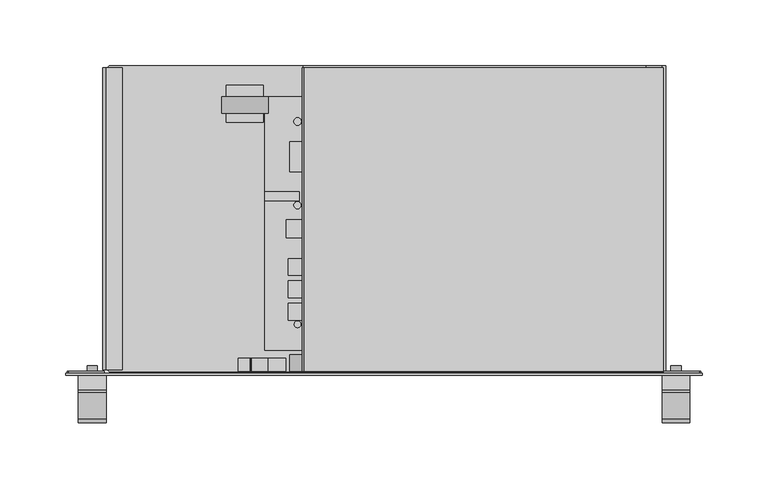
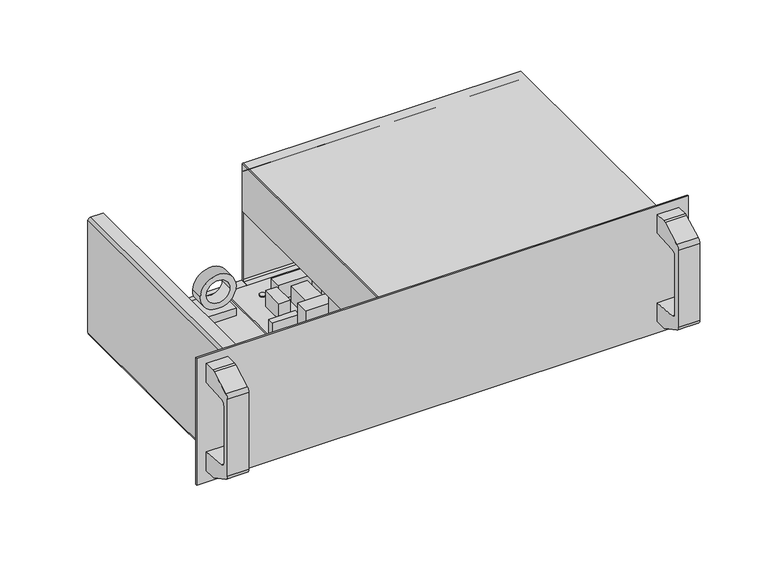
"""IFC4 building model written with IfcOpenShell, lengths in millimetres: proxy geometry, AES 48V 8A RACK : AES 48V 8A RACK."""

from ifc_helpers import new_model, si_unit, point, frame, frame_2d, origin, place, context, project, spatial, polyline, circle_curve, trimmed, segment, composite_curve, outline, extrude, source, transform, mapped, element, save


def electrical_equipment_2903663d(model_context):
    return source(origin(), model_context, "Body", "SweptSolid", [
        extrude(outline(composite_curve([segment(trimmed(circle_curve(frame_2d((69.5120804, -40.3346366)), 17.6593111), [point((69.5120804, -22.6753256))], [point((69.5120804, -57.9939477))], False, "CARTESIAN"), True, "CONTINUOUS"), segment(trimmed(circle_curve(frame_2d((69.5120804, -40.3346366)), 17.6593111), [point((69.5120804, -57.9939477))], [point((69.5120804, -22.6753256))], False, "CARTESIAN"), True, "CONTINUOUS")], self_intersect=False), holes=[composite_curve([segment(trimmed(circle_curve(frame_2d((69.5120804, -40.3346366)), 11.5), [point((69.5120804, -28.8346366))], [point((69.5120804, -51.8346366))], True, "CARTESIAN"), True, "CONTINUOUS"), segment(trimmed(circle_curve(frame_2d((69.5120804, -40.3346366)), 11.5), [point((69.5120804, -51.8346366))], [point((69.5120804, -28.8346366))], True, "CARTESIAN"), True, "CONTINUOUS")], self_intersect=False)]), frame((0.0, -103.5804057, 0.0), z_axis=(0.0, 1.0, 0.0), x_axis=(0.0, 0.0, 1.0)), (0.0, 0.0, 1.0), 12.75),
        extrude(outline(composite_curve([segment(trimmed(circle_curve(frame_2d((85.5561483, -75.5633423)), 1.4726773), [point((85.4575, -74.0939727))], [point((84.4475, -74.5939727))], True, "CARTESIAN"), True, "CONTINUOUS"), segment(polyline([(84.4475, -74.5939727), (84.4475, -87.1739727)]), True, "CONTINUOUS"), segment(trimmed(circle_curve(frame_2d((85.0762624, -87.1739727)), 0.6287624), [point((84.4475, -87.1739727))], [point((85.4575, -87.6739727))], True, "CARTESIAN"), True, "CONTINUOUS"), segment(polyline([(85.4575, -87.6739727), (85.4575, -96.9439727), (43.4175, -96.9439727), (43.4175, -87.6739727), (44.4275, -87.1739727), (44.4275, -74.5939727), (43.4175, -74.0939727), (43.4175, -60.8939727), (85.4575, -60.8939727), (85.4575, -74.0939727)]), True, "CONTINUOUS")], self_intersect=False)), frame((0.0, -103.5804057, 0.0), z_axis=(0.0, 1.0, 0.0), x_axis=(0.0, 0.0, 1.0)), (0.0, 0.0, 1.0), 10.1),
        extrude(outline(composite_curve([segment(trimmed(circle_curve(frame_2d((111.0486852, -207.8805611)), 3.8825564), [point((111.0486852, -211.7631175))], [point((111.0486852, -203.9980047))], False, "CARTESIAN"), True, "CONTINUOUS"), segment(trimmed(circle_curve(frame_2d((111.0486852, -207.8805611)), 3.8825564), [point((111.0486852, -203.9980047))], [point((111.0486852, -211.7631175))], False, "CARTESIAN"), True, "CONTINUOUS")], self_intersect=False)), frame((0.0, -105.0804057, 0.0), z_axis=(0.0, 1.0, 0.0), x_axis=(0.0, 0.0, 1.0)), (0.0, 0.0, 1.0), 5.7),
        extrude(outline(composite_curve([segment(trimmed(circle_curve(frame_2d((111.0073968, 235.1983586)), 3.9056349), [point((111.0073968, 231.2927237))], [point((111.0073968, 239.1039935))], False, "CARTESIAN"), True, "CONTINUOUS"), segment(trimmed(circle_curve(frame_2d((111.0073968, 235.1983586)), 3.9056349), [point((111.0073968, 239.1039935))], [point((111.0073968, 231.2927237))], False, "CARTESIAN"), True, "CONTINUOUS")], self_intersect=False)), frame((0.0, -105.0804057, 0.0), z_axis=(0.0, 1.0, 0.0), x_axis=(0.0, 0.0, 1.0)), (0.0, 0.0, 1.0), 5.7),
        extrude(outline(composite_curve([segment(trimmed(circle_curve(frame_2d((18.5190475, 235.0400975)), 3.8287512), [point((18.5190475, 231.2113463))], [point((18.5190475, 238.8688488))], False, "CARTESIAN"), True, "CONTINUOUS"), segment(trimmed(circle_curve(frame_2d((18.5190475, 235.0400975)), 3.8287512), [point((18.5190475, 238.8688488))], [point((18.5190475, 231.2113463))], False, "CARTESIAN"), True, "CONTINUOUS")], self_intersect=False)), frame((0.0, -105.0804057, 0.0), z_axis=(0.0, 1.0, 0.0), x_axis=(0.0, 0.0, 1.0)), (0.0, 0.0, 1.0), 5.7),
        extrude(outline(composite_curve([segment(trimmed(circle_curve(frame_2d((18.5611817, -207.8813006)), 3.7501449), [point((18.5611817, -211.6314454))], [point((18.5611817, -204.1311557))], False, "CARTESIAN"), True, "CONTINUOUS"), segment(trimmed(circle_curve(frame_2d((18.5611817, -207.8813006)), 3.7501449), [point((18.5611817, -204.1311557))], [point((18.5611817, -211.6314454))], False, "CARTESIAN"), True, "CONTINUOUS")], self_intersect=False)), frame((0.0, -105.0804057, 0.0), z_axis=(0.0, 1.0, 0.0), x_axis=(0.0, 0.0, 1.0)), (0.0, 0.0, 1.0), 5.7),
        extrude(outline(composite_curve([segment(trimmed(circle_curve(frame_2d((-51.9851856, 86.1970682)), 2.8241029), [point((-54.8092885, 86.1970682))], [point((-49.1610827, 86.1970682))], False, "CARTESIAN"), True, "CONTINUOUS"), segment(trimmed(circle_curve(frame_2d((-51.9851856, 86.1970682)), 2.8241029), [point((-49.1610827, 86.1970682))], [point((-54.8092885, 86.1970682))], False, "CARTESIAN"), True, "CONTINUOUS")], self_intersect=False)), frame((0.0, 0.0, 6.0), z_axis=(0.0, 0.0, 1.0), x_axis=(1.0, 0.0, 0.0)), (0.0, 0.0, 1.0), 12.6),
        extrude(outline(composite_curve([segment(trimmed(circle_curve(frame_2d((-52.0963246, 22.7243521)), 2.7385816), [point((-54.8349062, 22.7243521))], [point((-49.357743, 22.7243521))], False, "CARTESIAN"), True, "CONTINUOUS"), segment(trimmed(circle_curve(frame_2d((-52.0963246, 22.7243521)), 2.7385816), [point((-49.357743, 22.7243521))], [point((-54.8349062, 22.7243521))], False, "CARTESIAN"), True, "CONTINUOUS")], self_intersect=False)), frame((0.0, 0.0, 6.0), z_axis=(0.0, 0.0, 1.0), x_axis=(1.0, 0.0, 0.0)), (0.0, 0.0, 1.0), 12.6),
        extrude(outline(composite_curve([segment(trimmed(circle_curve(frame_2d((-51.9263266, -67.7776614)), 2.4983309), [point((-54.4246575, -67.7776614))], [point((-49.4279958, -67.7776614))], False, "CARTESIAN"), True, "CONTINUOUS"), segment(trimmed(circle_curve(frame_2d((-51.9263266, -67.7776614)), 2.4983309), [point((-49.4279958, -67.7776614))], [point((-54.4246575, -67.7776614))], False, "CARTESIAN"), True, "CONTINUOUS")], self_intersect=False)), frame((0.0, 0.0, 6.0), z_axis=(0.0, 0.0, 1.0), x_axis=(1.0, 0.0, 0.0)), (0.0, 0.0, 1.0), 12.6),
        extrude(outline(composite_curve([segment(trimmed(circle_curve(frame_2d((145.3056812, -67.6231412)), 2.72988), [point((142.5758013, -67.6231412))], [point((148.0355612, -67.6231412))], False, "CARTESIAN"), True, "CONTINUOUS"), segment(trimmed(circle_curve(frame_2d((145.3056812, -67.6231412)), 2.72988), [point((148.0355612, -67.6231412))], [point((142.5758013, -67.6231412))], False, "CARTESIAN"), True, "CONTINUOUS")], self_intersect=False)), frame((0.0, 0.0, 6.0), z_axis=(0.0, 0.0, 1.0), x_axis=(1.0, 0.0, 0.0)), (0.0, 0.0, 1.0), 12.6),
        extrude(outline(composite_curve([segment(trimmed(circle_curve(frame_2d((145.3175625, 86.3095784)), 2.7108939), [point((142.6066685, 86.3095784))], [point((148.0284564, 86.3095784))], False, "CARTESIAN"), True, "CONTINUOUS"), segment(trimmed(circle_curve(frame_2d((145.3175625, 86.3095784)), 2.7108939), [point((148.0284564, 86.3095784))], [point((142.6066685, 86.3095784))], False, "CARTESIAN"), True, "CONTINUOUS")], self_intersect=False)), frame((0.0, 0.0, 6.0), z_axis=(0.0, 0.0, 1.0), x_axis=(1.0, 0.0, 0.0)), (0.0, 0.0, 1.0), 12.6),
        extrude(outline(composite_curve([segment(trimmed(circle_curve(frame_2d((85.5561483, -75.5633423)), 1.4726773), [point((85.4575, -74.0939727))], [point((84.4475, -74.5939727))], True, "CARTESIAN"), True, "CONTINUOUS"), segment(polyline([(84.4475, -74.5939727), (84.4475, -87.1739727)]), True, "CONTINUOUS"), segment(trimmed(circle_curve(frame_2d((85.0762624, -87.1739727)), 0.6287624), [point((84.4475, -87.1739727))], [point((85.4575, -87.6739727))], True, "CARTESIAN"), True, "CONTINUOUS"), segment(polyline([(85.4575, -87.6739727), (85.4575, -96.9439727), (43.4175, -96.9439727), (43.4175, -87.6739727), (44.4275, -87.1739727), (44.4275, -74.5939727), (43.4175, -74.0939727), (43.4175, -60.8939727), (85.4575, -60.8939727), (85.4575, -74.0939727)]), True, "CONTINUOUS")], self_intersect=False)), frame((0.0, -103.5804057, 0.0), z_axis=(0.0, 1.0, 0.0), x_axis=(0.0, 0.0, 1.0)), (0.0, 0.0, 1.0), 10.1),
        extrude(outline(polyline([(70.7205579, -37.8212855), (33.897325, -37.8212855), (33.897325, -55.4322057), (-8.0194421, -55.4322057), (-13.4690418, -55.4322057), (-13.4690418, -68.4918057), (-35.4844421, -68.4918057), (-35.4844421, -35.0322057), (-45.4844421, -35.0322057), (-45.4844421, -15.0322057), (70.7205579, -15.0322057), (70.7205579, -37.8212855)])), frame((0.0, 0.0, 17.6), z_axis=(0.0, 0.0, 1.0), x_axis=(1.0, 0.0, 0.0)), (0.0, 0.0, 1.0), 59.1044),
        extrude(outline(polyline([(141.6665579, 90.2073943), (141.6665579, -71.6922057), (41.6965579, -71.6922057), (41.6965579, -41.6922057), (76.6665579, -41.6922057), (76.6665579, 34.4073943), (-9.3334421, 34.4073943), (-9.3334421, 90.2073943), (141.6665579, 90.2073943)])), frame((0.0, 0.0, 61.0), z_axis=(0.0, 0.0, 1.0), x_axis=(1.0, 0.0, 0.0)), (0.0, 0.0, 1.0), 1.1),
        extrude(outline(polyline([(-60.5894421, 11.5677943), (46.5731579, 11.5677943), (46.5731579, -2.0237497), (-60.5894421, -2.0237497), (-60.5894421, 11.5677943)])), frame((0.0, 0.0, 17.6), z_axis=(0.0, 0.0, 1.0), x_axis=(1.0, 0.0, 0.0)), (0.0, 0.0, 1.0), 40.2),
        extrude(outline(polyline([(-21.2703727, -25.5856057), (7.7618273, -25.5856057), (7.7618273, -37.3966057), (-21.2703727, -37.3966057), (-21.2703727, -25.5856057)])), frame((0.0, 0.0, 16.0), z_axis=(0.0, 0.0, 1.0), x_axis=(1.0, 0.0, 0.0)), (0.0, 0.0, 1.0), 17.8),
        extrude(outline(polyline([(-21.2703727, -9.9646057), (7.3880344, -9.9646057), (7.3880344, -22.1300845), (-21.2703727, -22.1300845), (-21.2703727, -9.9646057)])), frame((0.0, 0.0, 16.0), z_axis=(0.0, 0.0, 1.0), x_axis=(1.0, 0.0, 0.0)), (0.0, 0.0, 1.0), 17.8),
        extrude(outline(polyline([(-21.0417727, -71.2294057), (-21.0417727, -42.1972057), (-9.2307727, -42.1972057), (-9.2307727, -71.2294057), (-21.0417727, -71.2294057)])), frame((0.0, 0.0, 16.0), z_axis=(0.0, 0.0, 1.0), x_axis=(1.0, 0.0, 0.0)), (0.0, 0.0, 1.0), 17.8),
        extrude(outline(polyline([(-50.8105727, 32.701795), (-50.8105727, 26.1933546), (-76.8963727, 26.1933546), (-76.8963727, 32.701795), (-50.8105727, 32.701795)])), frame((0.0, 0.0, 16.0), z_axis=(0.0, 0.0, 1.0), x_axis=(1.0, 0.0, 0.0)), (0.0, 0.0, 1.0), 17.8),
        extrude(outline(polyline([(-19.4037421, 66.0706943), (-19.4037421, 35.0706943), (-35.4037421, 35.0706943), (-35.4037421, 66.0706943), (-19.4037421, 66.0706943)])), frame((0.0, 0.0, 16.0), z_axis=(0.0, 0.0, 1.0), x_axis=(1.0, 0.0, 0.0)), (0.0, 0.0, 1.0), 17.8),
        extrude(outline(polyline([(-46.6696421, 70.9795943), (-46.6696421, 48.1195943), (-57.7694421, 48.1195943), (-57.7694421, 70.9795943), (-46.6696421, 70.9795943)])), frame((0.0, 0.0, 16.0), z_axis=(0.0, 0.0, 1.0), x_axis=(1.0, 0.0, 0.0)), (0.0, 0.0, 1.0), 17.8),
        extrude(outline(polyline([(-78.0726421, 113.6425951), (-78.0726421, 85.5525919), (-106.0811387, 85.5525919), (-106.0811387, 113.6425951), (-78.0726421, 113.6425951)])), frame((0.0, 0.0, 6.0), z_axis=(0.0, 0.0, 1.0), x_axis=(1.0, 0.0, 0.0)), (0.0, 0.0, 1.0), 8.094273),
        extrude(outline(composite_curve([segment(polyline([(129.0, 225.5526273), (129.0, -47.4473727)]), True, "CONTINUOUS"), segment(trimmed(circle_curve(frame_2d((128.0, -47.4473727)), 1.0), [point((129.0, -47.4473727))], [point((128.0, -48.4473727))], False, "CARTESIAN"), True, "CONTINUOUS"), segment(polyline([(128.0, -48.4473727), (79.0, -48.4473727), (79.0, -47.4473727), (128.0, -47.4473727), (128.0, 225.5526273), (129.0, 225.5526273)]), True, "CONTINUOUS")], self_intersect=False)), frame((0.0, -103.5804057, 0.0), z_axis=(0.0, 1.0, 0.0), x_axis=(0.0, 0.0, 1.0)), (0.0, 0.0, 1.0), 230.5),
        extrude(outline(composite_curve([segment(trimmed(circle_curve(frame_2d((36.1, 151.0880473)), 17.6593111), [point((36.1, 168.7473583))], [point((36.1, 133.4287362))], False, "CARTESIAN"), True, "CONTINUOUS"), segment(trimmed(circle_curve(frame_2d((36.1, 151.0880473)), 17.6593111), [point((36.1, 133.4287362))], [point((36.1, 168.7473583))], False, "CARTESIAN"), True, "CONTINUOUS")], self_intersect=False), holes=[composite_curve([segment(trimmed(circle_curve(frame_2d((36.1, 151.0880473)), 11.5), [point((36.1, 162.5880473))], [point((36.1, 139.5880473))], True, "CARTESIAN"), True, "CONTINUOUS"), segment(trimmed(circle_curve(frame_2d((36.1, 151.0880473)), 11.5), [point((36.1, 139.5880473))], [point((36.1, 162.5880473))], True, "CARTESIAN"), True, "CONTINUOUS")], self_intersect=False)]), frame((0.0, 39.6966943, 0.0), z_axis=(0.0, 1.0, 0.0), x_axis=(0.0, 0.0, 1.0)), (0.0, 0.0, 1.0), 18.0),
        extrude(outline(composite_curve([segment(trimmed(circle_curve(frame_2d((36.1, 76.9425516)), 17.0), [point((36.1, 93.9425516))], [point((36.1, 59.9425516))], False, "CARTESIAN"), True, "CONTINUOUS"), segment(trimmed(circle_curve(frame_2d((36.1, 76.9425516)), 17.0), [point((36.1, 59.9425516))], [point((36.1, 93.9425516))], False, "CARTESIAN"), True, "CONTINUOUS")], self_intersect=False), holes=[composite_curve([segment(trimmed(circle_curve(frame_2d((36.1, 76.9425516)), 11.5), [point((36.1, 88.4425516))], [point((36.1, 65.4425516))], True, "CARTESIAN"), True, "CONTINUOUS"), segment(trimmed(circle_curve(frame_2d((36.1, 76.9425516)), 11.5), [point((36.1, 65.4425516))], [point((36.1, 88.4425516))], True, "CARTESIAN"), True, "CONTINUOUS")], self_intersect=False)]), frame((0.0, -36.8549363, 0.0), z_axis=(0.0, 1.0, 0.0), x_axis=(0.0, 0.0, 1.0)), (0.0, 0.0, 1.0), 12.75),
        extrude(outline(composite_curve([segment(trimmed(circle_curve(frame_2d((36.1, 36.4625333)), 17.6593111), [point((36.1, 54.1218443))], [point((36.1, 18.8032222))], False, "CARTESIAN"), True, "CONTINUOUS"), segment(trimmed(circle_curve(frame_2d((36.1, 36.4625333)), 17.6593111), [point((36.1, 18.8032222))], [point((36.1, 54.1218443))], False, "CARTESIAN"), True, "CONTINUOUS")], self_intersect=False), holes=[composite_curve([segment(trimmed(circle_curve(frame_2d((36.1, 36.4625333)), 11.5), [point((36.1, 47.9625333))], [point((36.1, 24.9625333))], True, "CARTESIAN"), True, "CONTINUOUS"), segment(trimmed(circle_curve(frame_2d((36.1, 36.4625333)), 11.5), [point((36.1, 24.9625333))], [point((36.1, 47.9625333))], True, "CARTESIAN"), True, "CONTINUOUS")], self_intersect=False)]), frame((0.0, -36.8549363, 0.0), z_axis=(0.0, 1.0, 0.0), x_axis=(0.0, 0.0, 1.0)), (0.0, 0.0, 1.0), 12.75),
        extrude(outline(composite_curve([segment(trimmed(circle_curve(frame_2d((31.5628403, -92.0511196)), 17.6593111), [point((31.5628403, -74.3918086))], [point((31.5628403, -109.7104307))], False, "CARTESIAN"), True, "CONTINUOUS"), segment(trimmed(circle_curve(frame_2d((31.5628403, -92.0511196)), 17.6593111), [point((31.5628403, -109.7104307))], [point((31.5628403, -74.3918086))], False, "CARTESIAN"), True, "CONTINUOUS")], self_intersect=False), holes=[composite_curve([segment(trimmed(circle_curve(frame_2d((31.5628403, -92.0511196)), 11.5), [point((31.5628403, -80.5511196))], [point((31.5628403, -103.5511196))], True, "CARTESIAN"), True, "CONTINUOUS"), segment(trimmed(circle_curve(frame_2d((31.5628403, -92.0511196)), 11.5), [point((31.5628403, -103.5511196))], [point((31.5628403, -80.5511196))], True, "CARTESIAN"), True, "CONTINUOUS")], self_intersect=False)]), frame((0.0, 92.4195943, 0.0), z_axis=(0.0, 1.0, 0.0), x_axis=(0.0, 0.0, 1.0)), (0.0, 0.0, 1.0), 12.75),
        extrude(outline(polyline([(-46.6680154, -64.5077495), (-59.1664421, -64.5077495), (-59.1664421, -51.8036007), (-46.6680154, -51.8036007), (-46.6680154, -64.5077495)])), frame((0.0, 0.0, 17.6), z_axis=(0.0, 0.0, 1.0), x_axis=(1.0, 0.0, 0.0)), (0.0, 0.0, 1.0), 20.35),
        extrude(outline(polyline([(-46.6680154, -17.9712057), (-46.6680154, -30.6712057), (-59.1664421, -30.6712057), (-59.1664421, -17.9712057), (-46.6680154, -17.9712057)])), frame((0.0, 0.0, 17.6), z_axis=(0.0, 0.0, 1.0), x_axis=(1.0, 0.0, 0.0)), (0.0, 0.0, 1.0), 20.35),
        extrude(outline(polyline([(-48.3782372, -34.8622057), (-48.3782372, -47.5622057), (-59.1664421, -47.5622057), (-59.1664421, -34.8622057), (-48.3782372, -34.8622057)])), frame((0.0, 0.0, 17.6), z_axis=(0.0, 0.0, 1.0), x_axis=(1.0, 0.0, 0.0)), (0.0, 0.0, 1.0), 20.35),
        extrude(outline(polyline([(128.7611737, 64.1017943), (128.7611737, 38.0667943), (120.4730775, 38.0667943), (120.4730775, 64.1017943), (128.7611737, 64.1017943)])), frame((0.0, 0.0, 16.0), z_axis=(0.0, 0.0, 1.0), x_axis=(1.0, 0.0, 0.0)), (0.0, 0.0, 1.0), 17.8),
        extrude(outline(polyline([(171.7442273, -87.5616057), (-77.0233727, -87.5616057), (-77.0233727, 104.9957943), (171.7442273, 104.9957943), (171.7442273, -87.5616057)])), frame((0.0, 0.0, 16.0), z_axis=(0.0, 0.0, 1.0), x_axis=(1.0, 0.0, 0.0)), (0.0, 0.0, 1.0), 1.6),
        extrude(outline(polyline([(-44.7646421, 83.9589943), (-11.9224421, 83.9589943), (-11.9224421, 72.0683082), (-44.7646421, 72.0683082), (-44.7646421, 83.9589943)])), frame((0.0, 0.0, 16.0), z_axis=(0.0, 0.0, 1.0), x_axis=(1.0, 0.0, 0.0)), (0.0, 0.0, 1.0), 17.8),
        extrude(outline(polyline([(141.6665579, 90.2073943), (141.6665579, 60.5695943), (-8.3334421, 60.5695943), (-8.3334421, 90.2073943), (141.6665579, 90.2073943)])), frame((0.0, 0.0, 17.6), z_axis=(0.0, 0.0, 1.0), x_axis=(1.0, 0.0, 0.0)), (0.0, 0.0, 1.0), 43.4),
        extrude(outline(polyline([(41.6965579, -71.6922057), (41.6965579, -41.6922057), (76.6665579, -41.6922057), (141.6665579, -41.6922057), (141.6665579, -71.6922057), (41.6965579, -71.6922057)])), frame((0.0, 0.0, 17.6), z_axis=(0.0, 0.0, 1.0), x_axis=(1.0, 0.0, 0.0)), (0.0, 0.0, 1.0), 43.4),
        extrude(outline(composite_curve([segment(trimmed(circle_curve(frame_2d((102.3743586, 50.3664957)), 17.6348629), [point((84.7394956, 50.3664957))], [point((120.0092215, 50.3664957))], False, "CARTESIAN"), True, "CONTINUOUS"), segment(trimmed(circle_curve(frame_2d((102.3743586, 50.3664957)), 17.6348629), [point((120.0092215, 50.3664957))], [point((84.7394956, 50.3664957))], False, "CARTESIAN"), True, "CONTINUOUS")], self_intersect=False)), frame((0.0, 0.0, 17.6), z_axis=(0.0, 0.0, 1.0), x_axis=(1.0, 0.0, 0.0)), (0.0, 0.0, 1.0), 42.0),
        extrude(outline(composite_curve([segment(trimmed(circle_curve(frame_2d((66.596714, 50.2520288)), 17.6348629), [point((48.9618511, 50.2520288))], [point((84.231577, 50.2520288))], False, "CARTESIAN"), True, "CONTINUOUS"), segment(trimmed(circle_curve(frame_2d((66.596714, 50.2520288)), 17.6348629), [point((84.231577, 50.2520288))], [point((48.9618511, 50.2520288))], False, "CARTESIAN"), True, "CONTINUOUS")], self_intersect=False)), frame((0.0, 0.0, 17.6), z_axis=(0.0, 0.0, 1.0), x_axis=(1.0, 0.0, 0.0)), (0.0, 0.0, 1.0), 42.0),
        extrude(outline(composite_curve([segment(polyline([(125.4195943, 120.9021665), (118.4195943, 120.9021665), (113.4195943, 120.9021665), (113.4195943, 122.4021665), (118.4195943, 122.4021665), (125.4195943, 122.4021665)]), True, "CONTINUOUS"), segment(trimmed(circle_curve(frame_2d((125.4195943, 119.4021665)), 3.0), [point((125.4195943, 122.4021665))], [point((128.4195943, 119.4021665))], False, "CARTESIAN"), True, "CONTINUOUS"), segment(polyline([(128.4195943, 119.4021665), (128.4195943, 7.515625)]), True, "CONTINUOUS"), segment(trimmed(circle_curve(frame_2d((125.4195943, 7.515625)), 3.0), [point((128.4195943, 7.515625))], [point((125.4195943, 4.515625))], False, "CARTESIAN"), True, "CONTINUOUS"), segment(polyline([(125.4195943, 4.515625), (-103.5804057, 4.515625), (-103.5804057, 6.0), (125.4195943, 6.0)]), True, "CONTINUOUS"), segment(trimmed(circle_curve(frame_2d((125.4195943, 7.5)), 1.5), [point((125.4195943, 6.0))], [point((126.9195943, 7.5))], True, "CARTESIAN"), True, "CONTINUOUS"), segment(polyline([(126.9195943, 7.5), (126.9195943, 119.4021665)]), True, "CONTINUOUS"), segment(trimmed(circle_curve(frame_2d((125.4195943, 119.4021665)), 1.5), [point((126.9195943, 119.4021665))], [point((125.4195943, 120.9021665))], True, "CARTESIAN"), True, "CONTINUOUS")], self_intersect=False)), frame((-47.5481667, 0.0, 0.0), z_axis=(1.0, 0.0, 0.0), x_axis=(0.0, 1.0, 0.0)), (0.0, 0.0, 1.0), 270.4),
        extrude(outline(polyline([(222.5526273, -103.5804057), (-194.8473727, -103.5804057), (-196.8473727, -101.5804057), (-196.8026476, 126.4643194), (-194.8473727, 128.4195943), (-45.8473727, 128.4195943), (-45.8473727, 125.4195943), (224.5526273, 125.4195943), (224.5526273, -101.5804057), (222.5526273, -103.5804057)])), frame((0.0, 0.0, 4.5), z_axis=(0.0, 0.0, 1.0), x_axis=(1.0, 0.0, 0.0)), (0.0, 0.0, 1.0), 1.5),
        extrude(outline(polyline([(126.5, 253.3526273), (126.5, 226.0526273), (125.2589841, 226.0526273), (6.0, 226.0526273), (6.0, 253.3526273), (6.7747307, 254.1273579), (125.7252693, 254.1273579), (126.5, 253.3526273)])), frame((0.0, -105.0804057, 0.0), z_axis=(0.0, 1.0, 0.0), x_axis=(0.0, 0.0, 1.0)), (0.0, 0.0, 1.0), 1.5),
        extrude(outline(polyline([(126.5, -225.8726895), (125.5, -226.8726421), (7.0, -226.8726421), (6.0, -225.8726895), (6.0, -198.5574135), (126.5, -198.5574135), (126.5, -225.8726895)])), frame((0.0, -105.0804057, 0.0), z_axis=(0.0, 1.0, 0.0), x_axis=(0.0, 0.0, 1.0)), (0.0, 0.0, 1.0), 1.5),
        extrude(outline(composite_curve([segment(polyline([(123.4890082, -185.0726421), (125.0393288, -185.0726421), (125.0393288, -197.2527257)]), True, "CONTINUOUS"), segment(trimmed(circle_curve(frame_2d((122.0270938, -197.2527257)), 3.012235), [point((125.0393288, -197.2527257))], [point((123.1258595, -200.0574135))], False, "CARTESIAN"), True, "CONTINUOUS"), segment(polyline([(123.1258595, -200.0574135), (6.0, -200.0574135)]), True, "CONTINUOUS"), segment(trimmed(circle_curve(frame_2d((6.0, -197.0574135)), 3.0), [point((6.0, -200.0574135))], [point((3.0, -197.0574135))], False, "CARTESIAN"), True, "CONTINUOUS"), segment(polyline([(3.0, -197.0574135), (3.0, -181.6408834), (4.4375, -181.6408834), (4.4375, -197.0574135)]), True, "CONTINUOUS"), segment(trimmed(circle_curve(frame_2d((6.2375, -196.7274135)), 1.83), [point((4.4375, -197.0574135))], [point((6.2375, -198.5574135))], True, "CARTESIAN"), True, "CONTINUOUS"), segment(polyline([(6.2375, -198.5574135), (122.6992653, -198.5574135)]), True, "CONTINUOUS"), segment(trimmed(circle_curve(frame_2d((121.9619849, -197.2201709)), 1.5270233), [point((122.6992653, -198.5574135))], [point((123.4890082, -197.2201709))], True, "CARTESIAN"), True, "CONTINUOUS"), segment(polyline([(123.4890082, -197.2201709), (123.4890082, -185.0726421)]), True, "CONTINUOUS")], self_intersect=False)), frame((0.0, -102.0804057, 0.0), z_axis=(0.0, 1.0, 0.0), x_axis=(0.0, 0.0, 1.0)), (0.0, 0.0, 1.0), 228.9426557),
        extrude(outline(composite_curve([segment(polyline([(124.9375, 212.5526273), (124.9375, 224.5526273)]), True, "CONTINUOUS"), segment(trimmed(circle_curve(frame_2d((123.4104767, 224.5526273)), 1.5270233), [point((124.9375, 224.5526273))], [point((123.6964841, 226.0526273))], True, "CARTESIAN"), True, "CONTINUOUS"), segment(polyline([(123.6964841, 226.0526273), (6.2375, 226.0526273)]), True, "CONTINUOUS"), segment(trimmed(circle_curve(frame_2d((6.2375, 224.2226273)), 1.83), [point((6.2375, 226.0526273))], [point((4.4375, 224.5526273))], True, "CARTESIAN"), True, "CONTINUOUS"), segment(polyline([(4.4375, 224.5526273), (4.4375, 212.5526273), (2.9375, 212.5526273), (2.9375, 224.5526273)]), True, "CONTINUOUS"), segment(trimmed(circle_curve(frame_2d((5.9375, 224.5526273)), 3.0), [point((2.9375, 224.5526273))], [point((5.9375, 227.5526273))], False, "CARTESIAN"), True, "CONTINUOUS"), segment(polyline([(5.9375, 227.5526273), (123.6964841, 227.5526273)]), True, "CONTINUOUS"), segment(trimmed(circle_curve(frame_2d((123.425265, 224.5526273)), 3.012235), [point((123.6964841, 227.5526273))], [point((126.4375, 224.5526273))], False, "CARTESIAN"), True, "CONTINUOUS"), segment(polyline([(126.4375, 224.5526273), (126.4375, 212.5526273), (124.9375, 212.5526273)]), True, "CONTINUOUS")], self_intersect=False)), frame((0.0, -103.5804057, 0.0), z_axis=(0.0, 1.0, 0.0), x_axis=(0.0, 0.0, 1.0)), (0.0, 0.0, 1.0), 232.0),
        extrude(outline(composite_curve([segment(polyline([(-117.331115, 121.6370201), (-106.5804057, 121.6370201), (-106.5804057, 102.1370201), (-131.8561096, 100.3695707)]), True, "CONTINUOUS"), segment(trimmed(circle_curve(frame_2d((-131.5073272, 95.3817505)), 5.0), [point((-131.8561096, 100.3695707))], [point((-136.5073272, 95.3817505))], True, "CARTESIAN"), True, "CONTINUOUS"), segment(polyline([(-136.5073272, 95.3817505), (-136.5073272, 36.4932495)]), True, "CONTINUOUS"), segment(trimmed(circle_curve(frame_2d((-131.5073272, 36.4932495)), 5.0), [point((-136.5073272, 36.4932495))], [point((-131.8561096, 31.5054293))], True, "CARTESIAN"), True, "CONTINUOUS"), segment(polyline([(-131.8561096, 31.5054293), (-106.5804057, 29.7379799), (-106.5804057, 10.2379799), (-117.331115, 10.2379799)]), True, "CONTINUOUS"), segment(trimmed(circle_curve(frame_2d((-117.331115, 15.2379799)), 5.0), [point((-117.331115, 10.2379799))], [point((-119.682878, 10.825587))], False, "CARTESIAN"), True, "CONTINUOUS"), segment(polyline([(-119.682878, 10.825587), (-139.7590902, 21.5260151)]), True, "CONTINUOUS"), segment(trimmed(circle_curve(frame_2d((-137.4073272, 25.938408)), 5.0), [point((-139.7590902, 21.5260151))], [point((-142.4073272, 25.938408))], False, "CARTESIAN"), True, "CONTINUOUS"), segment(polyline([(-142.4073272, 25.938408), (-142.4073272, 105.936592)]), True, "CONTINUOUS"), segment(trimmed(circle_curve(frame_2d((-137.4073272, 105.936592)), 5.0), [point((-142.4073272, 105.936592))], [point((-139.7590902, 110.3489849))], False, "CARTESIAN"), True, "CONTINUOUS"), segment(polyline([(-139.7590902, 110.3489849), (-119.682878, 121.049413)]), True, "CONTINUOUS"), segment(trimmed(circle_curve(frame_2d((-117.331115, 116.6370201)), 5.0), [point((-119.682878, 121.049413))], [point((-117.331115, 121.6370201))], False, "CARTESIAN"), True, "CONTINUOUS")], self_intersect=False)), frame((224.8526273, 0.0, 0.0), z_axis=(1.0, 0.0, 0.0), x_axis=(0.0, 1.0, 0.0)), (0.0, 0.0, 1.0), 21.0),
        extrude(outline(composite_curve([segment(polyline([(-117.331115, 121.7151451), (-106.5804057, 121.7151451), (-106.5804057, 102.2151451), (-131.8561096, 100.4476957)]), True, "CONTINUOUS"), segment(trimmed(circle_curve(frame_2d((-131.5073272, 95.4598755)), 5.0), [point((-131.8561096, 100.4476957))], [point((-136.5073272, 95.4598755))], True, "CARTESIAN"), True, "CONTINUOUS"), segment(polyline([(-136.5073272, 95.4598755), (-136.5073272, 36.5713745)]), True, "CONTINUOUS"), segment(trimmed(circle_curve(frame_2d((-131.5073272, 36.5713745)), 5.0), [point((-136.5073272, 36.5713745))], [point((-131.8561096, 31.5835543))], True, "CARTESIAN"), True, "CONTINUOUS"), segment(polyline([(-131.8561096, 31.5835543), (-106.5804057, 29.8161049), (-106.5804057, 10.3161049), (-117.331115, 10.3161049)]), True, "CONTINUOUS"), segment(trimmed(circle_curve(frame_2d((-117.331115, 15.3161049)), 5.0), [point((-117.331115, 10.3161049))], [point((-119.682878, 10.903712))], False, "CARTESIAN"), True, "CONTINUOUS"), segment(polyline([(-119.682878, 10.903712), (-139.7590902, 21.6041401)]), True, "CONTINUOUS"), segment(trimmed(circle_curve(frame_2d((-137.4073272, 26.016533)), 5.0), [point((-139.7590902, 21.6041401))], [point((-142.4073272, 26.016533))], False, "CARTESIAN"), True, "CONTINUOUS"), segment(polyline([(-142.4073272, 26.016533), (-142.4073272, 106.014717)]), True, "CONTINUOUS"), segment(trimmed(circle_curve(frame_2d((-137.4073272, 106.014717)), 5.0), [point((-142.4073272, 106.014717))], [point((-139.7590902, 110.4271099))], False, "CARTESIAN"), True, "CONTINUOUS"), segment(polyline([(-139.7590902, 110.4271099), (-119.682878, 121.127538)]), True, "CONTINUOUS"), segment(trimmed(circle_curve(frame_2d((-117.331115, 116.7151451)), 5.0), [point((-119.682878, 121.127538))], [point((-117.331115, 121.7151451))], False, "CARTESIAN"), True, "CONTINUOUS")], self_intersect=False)), frame((-218.3726421, 0.0, 0.0), z_axis=(1.0, 0.0, 0.0), x_axis=(0.0, 1.0, 0.0)), (0.0, 0.0, 1.0), 21.0),
        extrude(outline(polyline([(255.1273579, -105.0804057), (255.1273579, -106.5804057), (-227.8726421, -106.5804057), (-227.8726421, -105.0804057), (255.1273579, -105.0804057)])), frame((0.0, 0.0, -1.5), z_axis=(0.0, 0.0, 1.0), x_axis=(1.0, 0.0, 0.0)), (0.0, 0.0, 1.0), 132.0),
    ])


if __name__ == "__main__":
    model = new_model("IFC4")
    model_context = context("Model", 3, world=origin())
    ifc_project = project(units=[si_unit("LENGTHUNIT", "METRE", prefix="MILLI")], contexts=[model_context])
    site = spatial("IfcSite", under=ifc_project)
    building = spatial("IfcBuilding", under=site)
    placement = place(None, origin())
    electrical_equipment_shape = electrical_equipment_2903663d(model_context)
    element("IfcBuildingElementProxy", 1, Name="AES 48V 8A RACK : AES 48V 8A RACK", ObjectType="AES 48V 8A RACK : AES 48V 8A RACK", at=placement, inside=building, context=model_context, shape_type="MappedRepresentation", body=[
        mapped(electrical_equipment_shape, transform((0.0, 0.0, 0.0), x_axis=(1.0, 0.0, 0.0), y_axis=(0.0, 1.0, 0.0), z_axis=(0.0, 0.0, 1.0))),
    ])
    save(model, "model.ifc")
